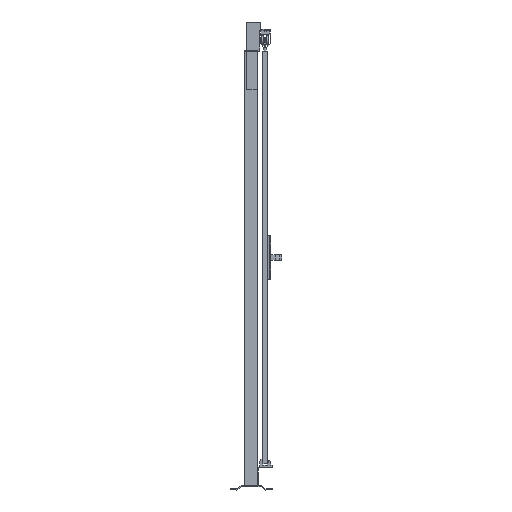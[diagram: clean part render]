
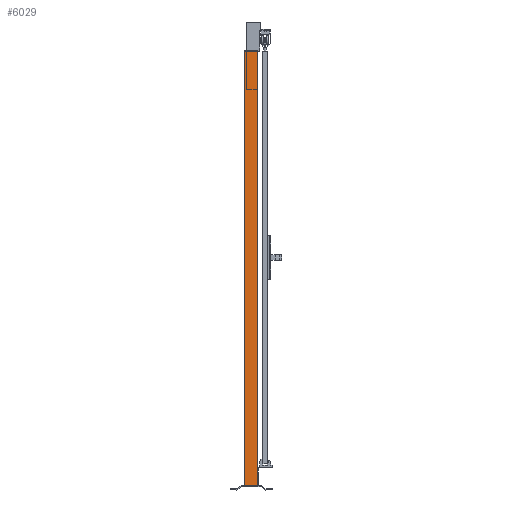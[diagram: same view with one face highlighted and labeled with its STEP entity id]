
A CAD part, left-side view. The second image highlights one B-rep face of the part: STEP entity #6029.
In plain terms, the highlighted planar face has unit normal (-1, 0, 0).
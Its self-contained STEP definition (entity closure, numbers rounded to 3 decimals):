
#615=FACE_OUTER_BOUND('',#1035,.T.);
#1035=EDGE_LOOP('',(#3692,#3693,#3694,#3695));
#1498=VERTEX_POINT('',#12018);
#1499=VERTEX_POINT('',#12020);
#1502=VERTEX_POINT('',#12027);
#1503=VERTEX_POINT('',#12029);
#2398=EDGE_CURVE('',#1498,#1499,#6843,.T.);
#2402=EDGE_CURVE('',#1502,#1503,#6847,.T.);
#2404=EDGE_CURVE('',#1499,#1502,#6849,.T.);
#2406=EDGE_CURVE('',#1498,#1503,#6851,.T.);
#3692=ORIENTED_EDGE('',*,*,#2406,.T.);
#3693=ORIENTED_EDGE('',*,*,#2402,.F.);
#3694=ORIENTED_EDGE('',*,*,#2404,.F.);
#3695=ORIENTED_EDGE('',*,*,#2398,.F.);
#5651=PLANE('',#8756);
#6029=ADVANCED_FACE('',(#615),#5651,.F.);
#6843=LINE('',#12021,#7844);
#6847=LINE('',#12030,#7848);
#6849=LINE('',#12033,#7850);
#6851=LINE('',#12036,#7852);
#7844=VECTOR('',#9604,1.);
#7848=VECTOR('',#9610,1.);
#7850=VECTOR('',#9614,1.);
#7852=VECTOR('',#9618,1.);
#8756=AXIS2_PLACEMENT_3D('',#12035,#9616,#9617);
#9604=DIRECTION('',(0.,-1.,0.));
#9610=DIRECTION('',(0.,1.,0.));
#9614=DIRECTION('',(0.,0.,-1.));
#9616=DIRECTION('center_axis',(1.,0.,0.));
#9617=DIRECTION('ref_axis',(0.,0.,-1.));
#9618=DIRECTION('',(0.,0.,-1.));
#12018=CARTESIAN_POINT('',(-30.,30.,2020.));
#12020=CARTESIAN_POINT('',(-30.,-30.,2020.));
#12021=CARTESIAN_POINT('',(-30.,0.,2020.));
#12027=CARTESIAN_POINT('',(-30.,-30.,20.));
#12029=CARTESIAN_POINT('',(-30.,30.,20.));
#12030=CARTESIAN_POINT('',(-30.,0.,20.));
#12033=CARTESIAN_POINT('',(-30.,-30.,1020.));
#12035=CARTESIAN_POINT('Origin',(-30.,0.,
1020.));
#12036=CARTESIAN_POINT('',(-30.,30.,1020.));
